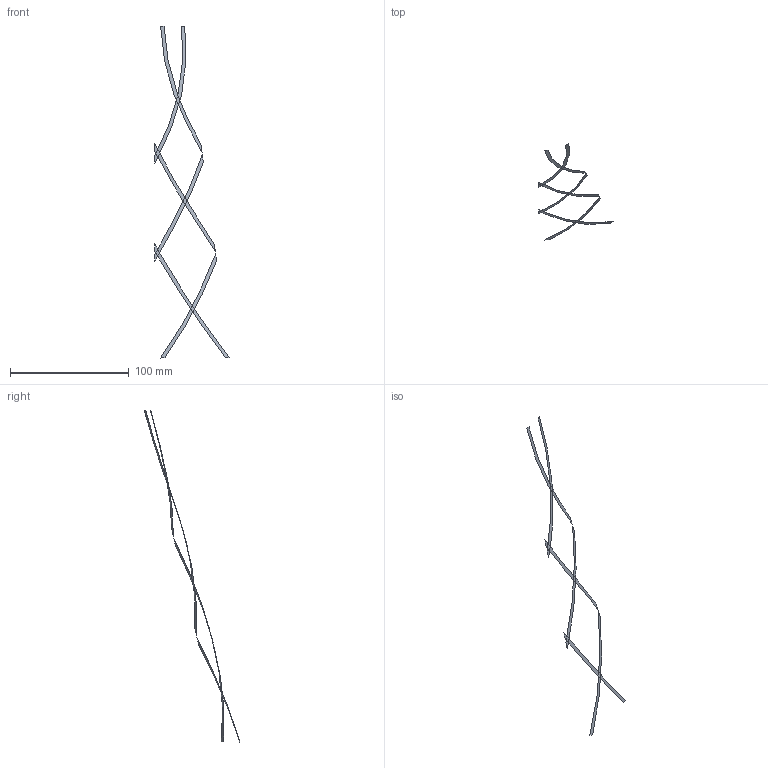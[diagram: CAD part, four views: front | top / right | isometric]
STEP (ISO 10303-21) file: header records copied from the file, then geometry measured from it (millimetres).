
FILE_DESCRIPTION(('CATIA V5 STEP Exchange'),'2;1');
FILE_NAME('C:\Users\diego\Dropbox\Academic\MEng Space Systems\3. MUE - Materiales uso Espacial\Coursework\Modelo FEM\CATIA\.stp\Heli_Stiffeners.stp','2021-11-25T16:17:06+00:00',('none'),('none'),'CATIA Version 5 Release 21 GA (IN-10)','CATIA V5 STEP AP203','none');
FILE_SCHEMA(('CONFIG_CONTROL_DESIGN'));
Length unit declared in the file: millimetre
Products named in the file (1): Part1
Bounding box: 62.82 x 80.49 x 279.9 mm (x, y, z)
Surface area: 1942.1 mm2 (no closed solid volume)
Topology: 0 solids, 6 shells, 6 faces, 34 edges, 34 vertices
Faces by surface type: bspline 6
Entity records: 911 total; most frequent: CARTESIAN_POINT 692, ORIENTED_EDGE 34, B_SPLINE_CURVE_WITH_KNOTS 34, EDGE_CURVE 34, VERTEX_POINT 34, OPEN_SHELL 6, SHELL_BASED_SURFACE_MODEL 6, ADVANCED_FACE 6
